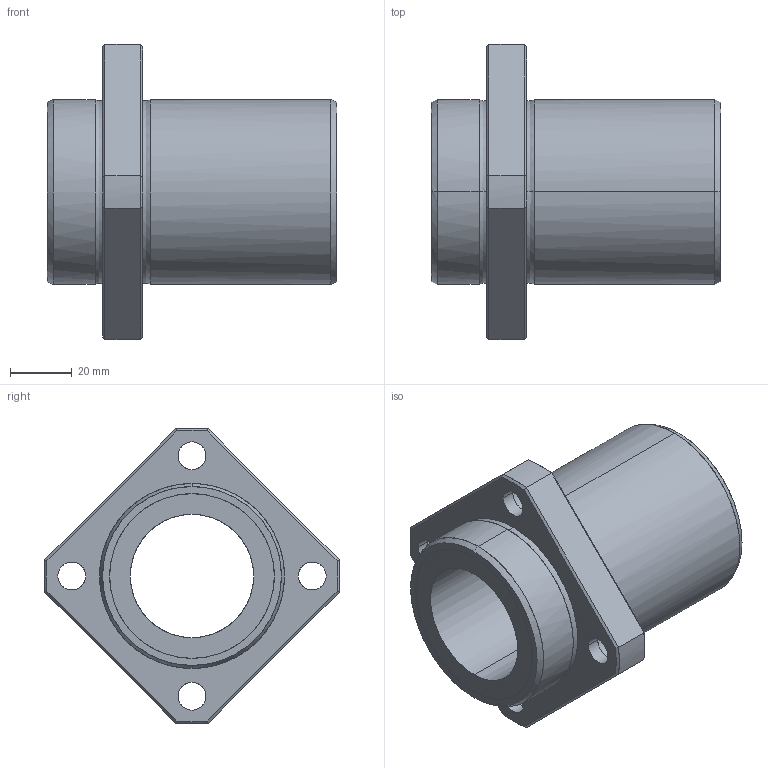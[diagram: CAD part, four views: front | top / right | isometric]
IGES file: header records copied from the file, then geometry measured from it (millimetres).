
Global section: file name: No Iges File Name specified; native system: AutoDesk Inventor R11.0; preprocessor: AutoDesk Inventor Iges Exporter R11.0; author: No Author specified; organization: No Organization specified; date: 20170921.134438; units: millimetre
Bounding box: 94 x 95.99 x 96 mm (x, y, z)
Surface area: 40435.8 mm2 (no closed solid volume)
Topology: 0 solids, 0 shells, 69 faces, 424 edges, 424 vertices
Faces by surface type: bspline 69
